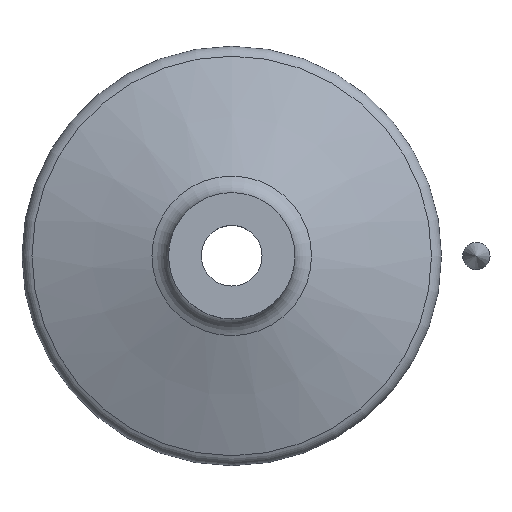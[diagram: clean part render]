
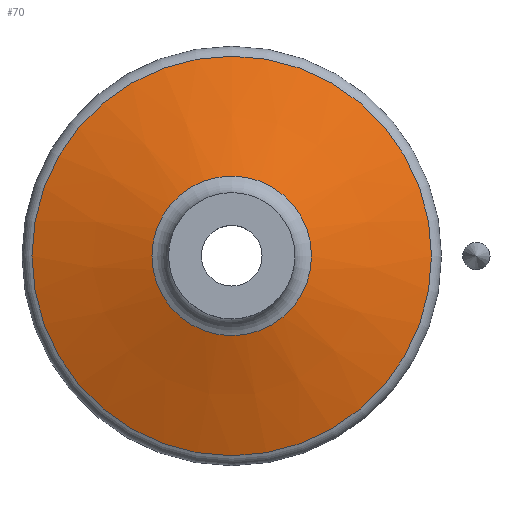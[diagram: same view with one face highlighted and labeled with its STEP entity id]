
A CAD part, top view. The second image highlights one B-rep face of the part: STEP entity #70.
In plain terms, the highlighted conical face has half-angle 70 degrees and reference radius 27.658 mm.
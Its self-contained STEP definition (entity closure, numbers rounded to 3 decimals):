
#70=ADVANCED_FACE('',(#159,#160),#161,.T.);
#159=FACE_BOUND('',#273,.T.);
#160=FACE_OUTER_BOUND('',#274,.T.);
#161=CONICAL_SURFACE('',#275,27.658,1.222);
#273=EDGE_LOOP('',(#395));
#274=EDGE_LOOP('',(#396));
#275=AXIS2_PLACEMENT_3D('',#397,#398,#399);
#395=ORIENTED_EDGE('',*,*,#518,.T.);
#396=ORIENTED_EDGE('',*,*,#515,.F.);
#397=CARTESIAN_POINT('',(0.0,0.,26.642));
#398=DIRECTION('',(0.0,0.,-1.0));
#399=DIRECTION('',(1.0,0.0,0.0));
#515=EDGE_CURVE('',#580,#580,#581,.T.);
#518=EDGE_CURVE('',#585,#585,#586,.T.);
#580=VERTEX_POINT('',#656);
#581=CIRCLE('',#657,39.526);
#585=VERTEX_POINT('',#661);
#586=CIRCLE('',#662,15.79);
#656=CARTESIAN_POINT('',(0.0,39.526,22.322));
#657=AXIS2_PLACEMENT_3D('',#738,#739,#740);
#661=CARTESIAN_POINT('',(0.0,15.79,30.961));
#662=AXIS2_PLACEMENT_3D('',#744,#745,#746);
#738=CARTESIAN_POINT('',(0.0,0.,22.322));
#739=DIRECTION('',(0.0,0.,-1.0));
#740=DIRECTION('',(0.0,1.0,0.));
#744=CARTESIAN_POINT('',(0.0,0.,30.961));
#745=DIRECTION('',(0.0,0.,-1.0));
#746=DIRECTION('',(0.0,1.0,0.));
